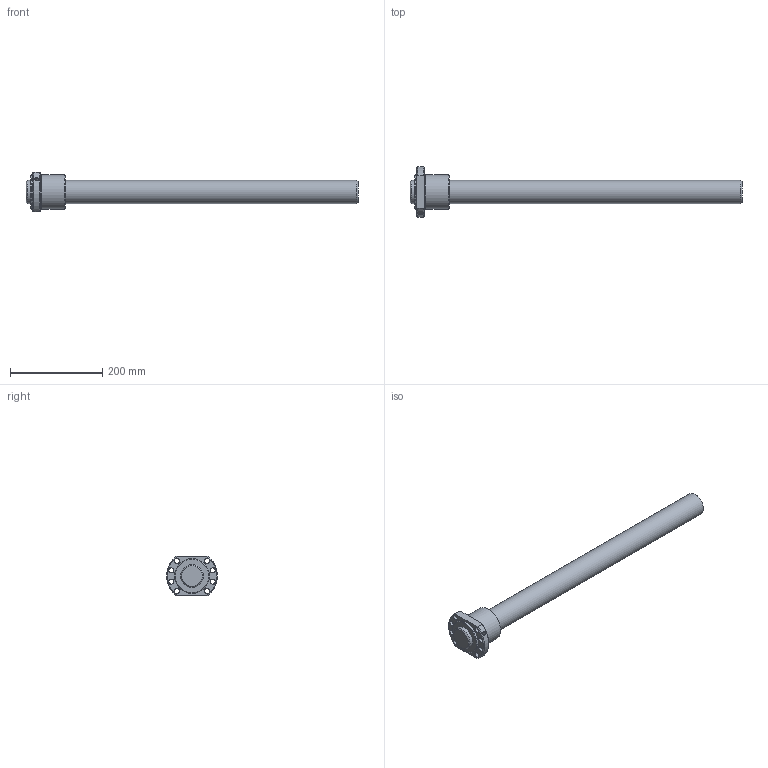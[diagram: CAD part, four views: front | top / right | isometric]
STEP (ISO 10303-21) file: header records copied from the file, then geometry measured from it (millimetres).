
FILE_DESCRIPTION(/* description */ ('STEP AP214'),/* implementation_level */ '2;1');
FILE_NAME(/* name */ 'EBB5005-6RR+720LC7(62500)-ebb3_rev',/* time_stamp */ '2023-08-03T13:14:19+02:00',/* author */ ('License CC BY-ND 4.0'),/* organization */ ('CADENAS'),/* preprocessor_version */ 'ST-DEVELOPER v19.3',/* originating_system */ 'PARTsolutions',/* authorisation */ ' ');
FILE_SCHEMA (('AUTOMOTIVE_DESIGN {1 0 10303 214 3 1 1}'));
Length unit declared in the file: millimetre
Products named in the file (3): EBB5005-6RR+720LC7(62500)-ebb3_rev; EBB 5005-6RR Nut3; EBB 5005-66250 Shaft3
Assembly tree (2 placements, depth 2):
  EBB5005-6RR+720LC7(62500)-ebb3_rev
    EBB 5005-6RR Nut3
    EBB 5005-66250 Shaft3
Bounding box: 720 x 109.65 x 85 mm (x, y, z)
Volume: 1643351.8 mm3; surface area: 163920.9 mm2
Topology: 2 solids, 2 shells, 34 faces, 77 edges, 50 vertices
Faces by surface type: cylinder 16, cone 9, plane 9
Full cylindrical faces by diameter (mm): 6.647 x1, 11 x8, 50 x2, 70.5 x1, 75 x2
Entity records: 1003 total; most frequent: CARTESIAN_POINT 187, DIRECTION 160, ORIENTED_EDGE 114, EDGE_LOOP 76, FACE_BOUND 76, AXIS2_PLACEMENT_3D 76, EDGE_CURVE 57, VERTEX_POINT 49
